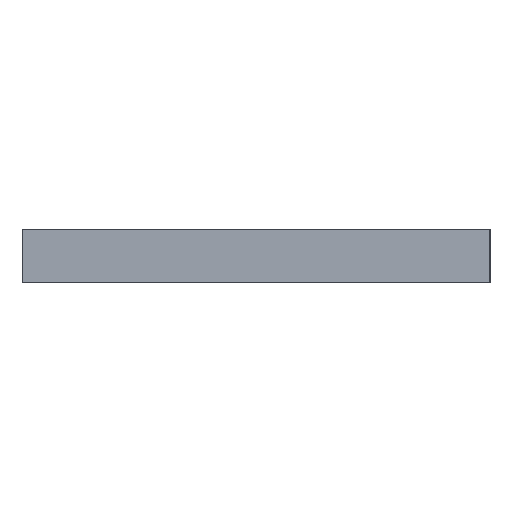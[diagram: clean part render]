
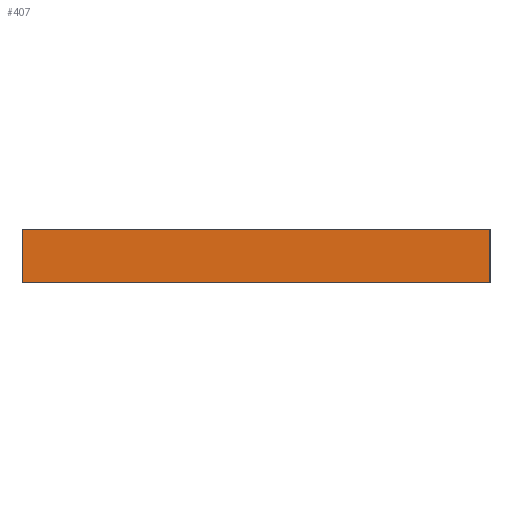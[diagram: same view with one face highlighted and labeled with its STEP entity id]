
A CAD part, left-side view. The second image highlights one B-rep face of the part: STEP entity #407.
In plain terms, the highlighted planar face has unit normal (-1, 0, 0).
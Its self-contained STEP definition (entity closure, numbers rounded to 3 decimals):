
#157 = EDGE_LOOP ( 'NONE', ( #158, #159, #161, #176 ) ) ;
#158 = ORIENTED_EDGE ( 'NONE', *, *, #164, .T. ) ;
#159 = ORIENTED_EDGE ( 'NONE', *, *, #160, .F. ) ;
#160 = EDGE_CURVE ( 'NONE', #317, #166, #718, .T. ) ;
#161 = ORIENTED_EDGE ( 'NONE', *, *, #315, .F. ) ;
#164 = EDGE_CURVE ( 'NONE', #165, #166, #714, .T. ) ;
#165 = VERTEX_POINT ( 'NONE', #710 ) ;
#166 = VERTEX_POINT ( 'NONE', #709 ) ;
#176 = ORIENTED_EDGE ( 'NONE', *, *, #177, .T. ) ;
#177 = EDGE_CURVE ( 'NONE', #316, #165, #936, .T. ) ;
#315 = EDGE_CURVE ( 'NONE', #316, #317, #1284, .T. ) ;
#316 = VERTEX_POINT ( 'NONE', #1275 ) ;
#317 = VERTEX_POINT ( 'NONE', #1274 ) ;
#407 = ADVANCED_FACE ( 'NONE', ( #1075 ), #1074, .F. ) ;
#709 = CARTESIAN_POINT ( 'NONE',  ( -127.5, -35., 0. ) ) ;
#710 = CARTESIAN_POINT ( 'NONE',  ( -127.5, 35., 0. ) ) ;
#711 = DIRECTION ( 'NONE',  ( 0., -1., 0. ) ) ;
#712 = VECTOR ( 'NONE', #711, 1000. ) ;
#713 = CARTESIAN_POINT ( 'NONE',  ( -127.5, 35., 0. ) ) ;
#714 = LINE ( 'NONE', #713, #712 ) ;
#715 = DIRECTION ( 'NONE',  ( 0., 0., -1. ) ) ;
#716 = VECTOR ( 'NONE', #715, 1000. ) ;
#717 = CARTESIAN_POINT ( 'NONE',  ( -127.5, -35., 8. ) ) ;
#718 = LINE ( 'NONE', #717, #716 ) ;
#933 = DIRECTION ( 'NONE',  ( 0., 0., -1. ) ) ;
#934 = VECTOR ( 'NONE', #933, 1000. ) ;
#935 = CARTESIAN_POINT ( 'NONE',  ( -127.5, 35., 8. ) ) ;
#936 = LINE ( 'NONE', #935, #934 ) ;
#1070 = DIRECTION ( 'NONE',  ( 0., 0., -1. ) ) ;
#1071 = DIRECTION ( 'NONE',  ( 1., 0., 0. ) ) ;
#1072 = CARTESIAN_POINT ( 'NONE',  ( -127.5, 35., 8. ) ) ;
#1073 = AXIS2_PLACEMENT_3D ( 'NONE', #1072, #1071, #1070 ) ;
#1074 = PLANE ( 'NONE',  #1073 ) ;
#1075 = FACE_OUTER_BOUND ( 'NONE', #157, .T. ) ;
#1274 = CARTESIAN_POINT ( 'NONE',  ( -127.5, -35., 8. ) ) ;
#1275 = CARTESIAN_POINT ( 'NONE',  ( -127.5, 35., 8. ) ) ;
#1276 = DIRECTION ( 'NONE',  ( 0., -1., 0. ) ) ;
#1277 = VECTOR ( 'NONE', #1276, 1000. ) ;
#1278 = CARTESIAN_POINT ( 'NONE',  ( -127.5, 35., 8. ) ) ;
#1284 = LINE ( 'NONE', #1278, #1277 ) ;
